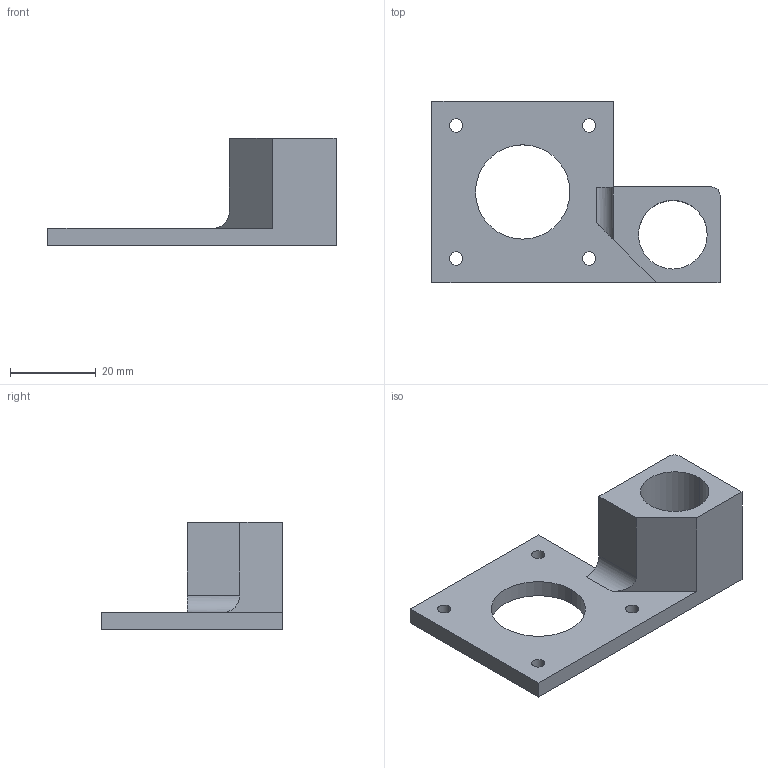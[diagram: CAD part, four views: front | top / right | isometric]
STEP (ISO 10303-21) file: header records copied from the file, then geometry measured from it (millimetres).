
FILE_DESCRIPTION (( 'STEP AP203' ), '1' );
FILE_NAME ('stepper-support.STEP', '2024-07-01T06:55:11', ( '' ), ( '' ), 'SwSTEP 2.0', 'SolidWorks 2021', '' );
FILE_SCHEMA (( 'CONFIG_CONTROL_DESIGN' ));
Length unit declared in the file: millimetre
Products named in the file (1): stepper-support
Bounding box: 67.15 x 42.3 x 25 mm (x, y, z)
Volume: 13207.8 mm3; surface area: 8009.1 mm2
Topology: 1 solids, 1 shells, 41 faces, 109 edges, 66 vertices
Faces by surface type: cylinder 22, plane 11, cone 8
Entity records: 1327 total; most frequent: DIRECTION 227, CARTESIAN_POINT 212, ORIENTED_EDGE 202, EDGE_CURVE 101, AXIS2_PLACEMENT_3D 85, VERTEX_POINT 66, VECTOR 57, LINE 57
